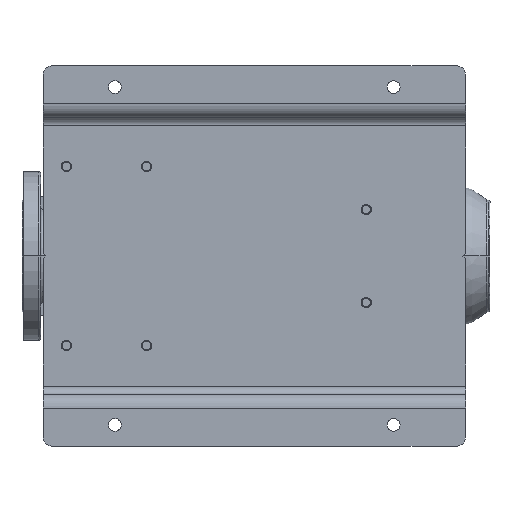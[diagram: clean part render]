
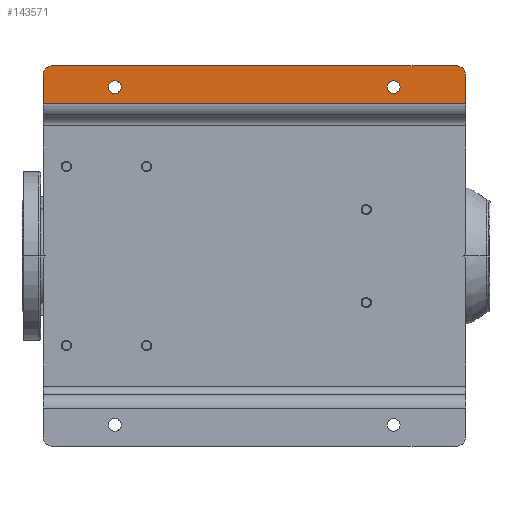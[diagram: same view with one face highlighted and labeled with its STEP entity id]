
A CAD part, front view. The second image highlights one B-rep face of the part: STEP entity #143571.
In plain terms, the highlighted planar face has unit normal (0, -1, 0).
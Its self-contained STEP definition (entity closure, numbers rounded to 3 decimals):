
#753 = ORIENTED_EDGE ( 'NONE', *, *, #99574, .T. ) ;
#800 = CARTESIAN_POINT ( 'NONE',  ( 450., 0., -500. ) ) ;
#837 = CARTESIAN_POINT ( 'NONE',  ( 389., 0., 0. ) ) ;
#863 = FACE_BOUND ( 'NONE', #63107, .T. ) ;
#4641 = CARTESIAN_POINT ( 'NONE',  ( 425., 0., -415. ) ) ;
#11503 = FACE_OUTER_BOUND ( 'NONE', #106232, .T. ) ;
#13025 = VERTEX_POINT ( 'NONE', #188150 ) ;
#14175 = AXIS2_PLACEMENT_3D ( 'NONE', #187679, #43286, #114494 ) ;
#16038 = ORIENTED_EDGE ( 'NONE', *, *, #113647, .T. ) ;
#16572 = DIRECTION ( 'NONE',  ( 1., 0., 0. ) ) ;
#23241 = ORIENTED_EDGE ( 'NONE', *, *, #47020, .T. ) ;
#27218 = LINE ( 'NONE', #85942, #162728 ) ;
#28313 = VERTEX_POINT ( 'NONE', #155440 ) ;
#29595 = CARTESIAN_POINT ( 'NONE',  ( 450., 0., -490. ) ) ;
#32107 = DIRECTION ( 'NONE',  ( 0., 0., -1. ) ) ;
#35518 = CIRCLE ( 'NONE', #69324, 7.5 ) ;
#39824 = ORIENTED_EDGE ( 'NONE', *, *, #46489, .F. ) ;
#41612 = CARTESIAN_POINT ( 'NONE',  ( 425., 0., -85. ) ) ;
#42015 = EDGE_CURVE ( 'NONE', #112179, #57207, #88820, .T. ) ;
#42584 = CARTESIAN_POINT ( 'NONE',  ( 440., 0., -490. ) ) ;
#43286 = DIRECTION ( 'NONE',  ( 0., -1., 0. ) ) ;
#46489 = EDGE_CURVE ( 'NONE', #13025, #73818, #190512, .T. ) ;
#47020 = EDGE_CURVE ( 'NONE', #97534, #28313, #128672, .T. ) ;
#48895 = AXIS2_PLACEMENT_3D ( 'NONE', #50058, #167523, #32107 ) ;
#50058 = CARTESIAN_POINT ( 'NONE',  ( 440., 0., -10. ) ) ;
#51906 = VERTEX_POINT ( 'NONE', #29595 ) ;
#54626 = CARTESIAN_POINT ( 'NONE',  ( 425., 0., -77.5 ) ) ;
#57207 = VERTEX_POINT ( 'NONE', #81219 ) ;
#57989 = DIRECTION ( 'NONE',  ( 0., 1., 0. ) ) ;
#62965 = DIRECTION ( 'NONE',  ( 0., 1., 0. ) ) ;
#63107 = EDGE_LOOP ( 'NONE', ( #23241, #169176 ) ) ;
#64543 = ORIENTED_EDGE ( 'NONE', *, *, #106793, .T. ) ;
#66671 = AXIS2_PLACEMENT_3D ( 'NONE', #123536, #62965, #183226 ) ;
#67168 = DIRECTION ( 'NONE',  ( 0., 1., 0. ) ) ;
#69049 = DIRECTION ( 'NONE',  ( 0., 0., -1. ) ) ;
#69324 = AXIS2_PLACEMENT_3D ( 'NONE', #169192, #67168, #69049 ) ;
#70273 = PLANE ( 'NONE',  #14175 ) ;
#72156 = DIRECTION ( 'NONE',  ( 1., 0., 0. ) ) ;
#73797 = AXIS2_PLACEMENT_3D ( 'NONE', #4641, #107664, #122094 ) ;
#73818 = VERTEX_POINT ( 'NONE', #131342 ) ;
#81219 = CARTESIAN_POINT ( 'NONE',  ( 440., 0., -500. ) ) ;
#85942 = CARTESIAN_POINT ( 'NONE',  ( 405., 0., -500. ) ) ;
#88820 = LINE ( 'NONE', #89761, #137202 ) ;
#89761 = CARTESIAN_POINT ( 'NONE',  ( 389., 0., -500. ) ) ;
#97534 = VERTEX_POINT ( 'NONE', #54626 ) ;
#99574 = EDGE_CURVE ( 'NONE', #105909, #143066, #100444, .T. ) ;
#100444 = CIRCLE ( 'NONE', #66671, 7.5 ) ;
#102909 = ORIENTED_EDGE ( 'NONE', *, *, #42015, .T. ) ;
#103834 = DIRECTION ( 'NONE',  ( 0., 0., 1. ) ) ;
#103901 = FACE_BOUND ( 'NONE', #145320, .T. ) ;
#105909 = VERTEX_POINT ( 'NONE', #184809 ) ;
#106232 = EDGE_LOOP ( 'NONE', ( #39824, #64543, #102909, #16038, #110914, #161238 ) ) ;
#106793 = EDGE_CURVE ( 'NONE', #13025, #112179, #27218, .T. ) ;
#107294 = CIRCLE ( 'NONE', #48895, 10. ) ;
#107664 = DIRECTION ( 'NONE',  ( 0., 1., 0. ) ) ;
#110914 = ORIENTED_EDGE ( 'NONE', *, *, #136766, .T. ) ;
#112179 = VERTEX_POINT ( 'NONE', #159713 ) ;
#113647 = EDGE_CURVE ( 'NONE', #57207, #51906, #182142, .T. ) ;
#114494 = DIRECTION ( 'NONE',  ( 0., 0., -1. ) ) ;
#115719 = DIRECTION ( 'NONE',  ( 0., 0., -1. ) ) ;
#122094 = DIRECTION ( 'NONE',  ( 0., 0., -1. ) ) ;
#123536 = CARTESIAN_POINT ( 'NONE',  ( 425., 0., -415. ) ) ;
#125632 = VECTOR ( 'NONE', #72156, 1000. ) ;
#128672 = CIRCLE ( 'NONE', #138011, 7.5 ) ;
#130188 = DIRECTION ( 'NONE',  ( 0., 0., -1. ) ) ;
#131110 = DIRECTION ( 'NONE',  ( 0., 0., -1. ) ) ;
#131342 = CARTESIAN_POINT ( 'NONE',  ( 440., 0., 0. ) ) ;
#133988 = DIRECTION ( 'NONE',  ( 0., -1., 0. ) ) ;
#135481 = CARTESIAN_POINT ( 'NONE',  ( 425., 0., -422.5 ) ) ;
#136766 = EDGE_CURVE ( 'NONE', #51906, #169395, #174139, .T. ) ;
#137202 = VECTOR ( 'NONE', #16572, 1000. ) ;
#138011 = AXIS2_PLACEMENT_3D ( 'NONE', #41612, #57989, #131110 ) ;
#140801 = EDGE_CURVE ( 'NONE', #143066, #105909, #141352, .T. ) ;
#141352 = CIRCLE ( 'NONE', #73797, 7.5 ) ;
#143066 = VERTEX_POINT ( 'NONE', #135481 ) ;
#143571 = ADVANCED_FACE ( 'NONE', ( #863, #103901, #11503 ), #70273, .T. ) ;
#145320 = EDGE_LOOP ( 'NONE', ( #753, #157236 ) ) ;
#155440 = CARTESIAN_POINT ( 'NONE',  ( 425., 0., -92.5 ) ) ;
#156708 = CARTESIAN_POINT ( 'NONE',  ( 450., 0., -10. ) ) ;
#157236 = ORIENTED_EDGE ( 'NONE', *, *, #140801, .T. ) ;
#159713 = CARTESIAN_POINT ( 'NONE',  ( 405., 0., -500. ) ) ;
#160615 = AXIS2_PLACEMENT_3D ( 'NONE', #42584, #133988, #115719 ) ;
#161238 = ORIENTED_EDGE ( 'NONE', *, *, #164647, .T. ) ;
#162728 = VECTOR ( 'NONE', #130188, 1000. ) ;
#164647 = EDGE_CURVE ( 'NONE', #169395, #73818, #107294, .T. ) ;
#167523 = DIRECTION ( 'NONE',  ( 0., -1., 0. ) ) ;
#169176 = ORIENTED_EDGE ( 'NONE', *, *, #182460, .T. ) ;
#169192 = CARTESIAN_POINT ( 'NONE',  ( 425., 0., -85. ) ) ;
#169395 = VERTEX_POINT ( 'NONE', #156708 ) ;
#174139 = LINE ( 'NONE', #800, #174149 ) ;
#174149 = VECTOR ( 'NONE', #103834, 1000. ) ;
#182142 = CIRCLE ( 'NONE', #160615, 10. ) ;
#182460 = EDGE_CURVE ( 'NONE', #28313, #97534, #35518, .T. ) ;
#183226 = DIRECTION ( 'NONE',  ( 0., 0., -1. ) ) ;
#184809 = CARTESIAN_POINT ( 'NONE',  ( 425., 0., -407.5 ) ) ;
#187679 = CARTESIAN_POINT ( 'NONE',  ( 389., 0., -500. ) ) ;
#188150 = CARTESIAN_POINT ( 'NONE',  ( 405., 0., 0. ) ) ;
#190512 = LINE ( 'NONE', #837, #125632 ) ;
